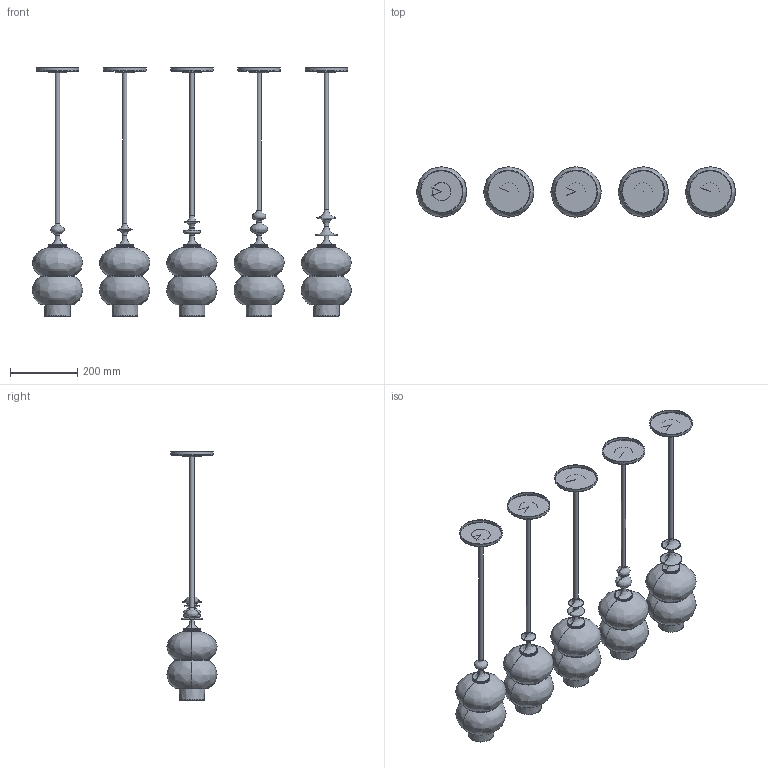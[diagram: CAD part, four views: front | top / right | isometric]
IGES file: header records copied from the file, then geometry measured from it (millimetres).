
Global section: file name: /Users/danielszollosi/Documents/SkLO/Sklo.com/3D models/WEB 3D Models/SkLO_AvroKO_PrincePendant_3D_LT611-615.igs; native system: Rhinoceros ( Dec  3 2024 ); preprocessor: Trout Lake IGES 012 Dec  3 2024; date: 250804.094716; units: millimetre
Bounding box: 949.98 x 150 x 738.94 mm (x, y, z)
Surface area: 1803463.2 mm2 (no closed solid volume)
Topology: 0 solids, 0 shells, 676 faces, 8214 edges, 7705 vertices
Faces by surface type: bspline 676
